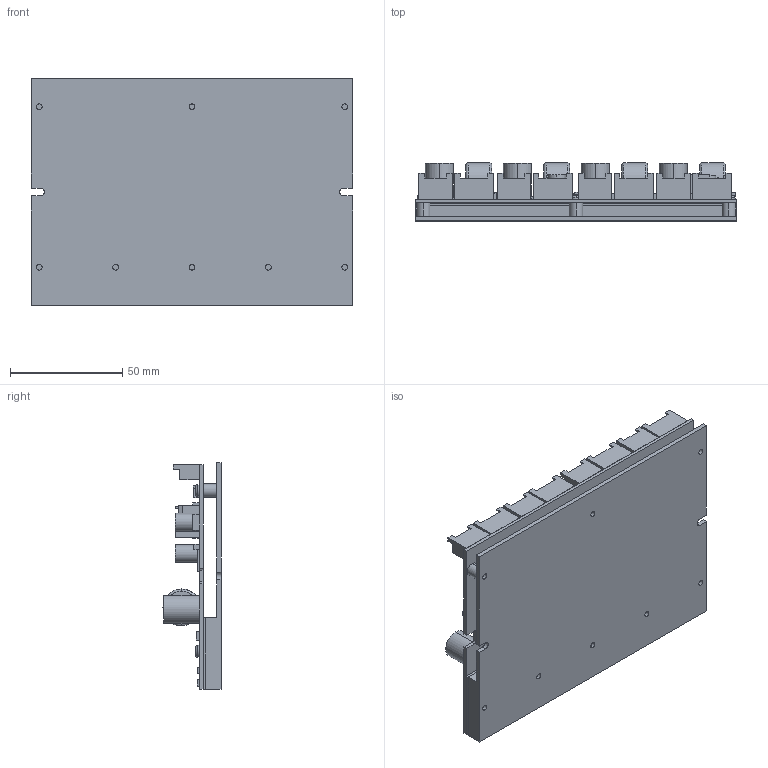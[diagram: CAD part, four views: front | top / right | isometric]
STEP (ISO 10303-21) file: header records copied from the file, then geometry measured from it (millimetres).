
FILE_DESCRIPTION (( 'STEP AP214' ), '1' );
FILE_NAME ('EXD5014MS-4L.STEP', '2016-09-07T07:21:55', ( 'hoho' ), ( '' ), 'SwSTEP 2.0', 'SolidWorks 2013', '' );
FILE_SCHEMA (( 'AUTOMOTIVE_DESIGN' ));
Length unit declared in the file: millimetre
Products named in the file (8): 大莫氏公-PIN04; 接頭-5pin; 接頭-6pin; NKJ3-6_NKJ3-6; VR-B02; EXD5014MS-4L-PCB; EXD5014MS-4L-C1; EXD5014MS-4L
Assembly tree (23 placements, depth 2):
  EXD5014MS-4L
    EXD5014MS-4L-C1
    EXD5014MS-4L-PCB
    VR-B02  x4
    NKJ3-6_NKJ3-6  x8
    接頭-6pin  x4
    接頭-5pin  x4
    大莫氏公-PIN04
Bounding box: 143 x 25.85 x 101 mm (x, y, z)
Volume: 104116.8 mm3; surface area: 92005.2 mm2
Topology: 27 solids, 27 shells, 2370 faces, 5965 edges, 3944 vertices
Faces by surface type: plane 1706, bspline 388, cylinder 164, torus 64, cone 32, sphere 16
Entity records: 48290 total; most frequent: CARTESIAN_POINT 12378, ORIENTED_EDGE 5706, DIRECTION 5115, EDGE_CURVE 2853, VECTOR 2353, LINE 2353, VERTEX_POINT 1888, EDGE_LOOP 1385
